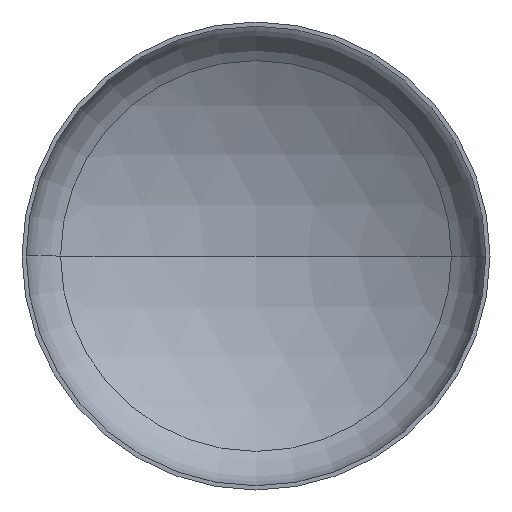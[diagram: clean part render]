
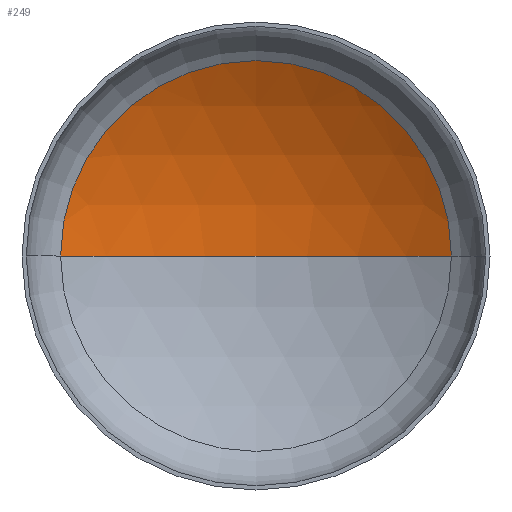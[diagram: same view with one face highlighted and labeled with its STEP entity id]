
A CAD part, front view. The second image highlights one B-rep face of the part: STEP entity #249.
In plain terms, the highlighted spherical face has radius 3200 mm.
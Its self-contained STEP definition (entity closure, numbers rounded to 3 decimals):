
#5 = AXIS2_PLACEMENT_3D ( 'NONE', #57, #112, #129 ) ;
#6 = VERTEX_POINT ( 'NONE', #243 ) ;
#12 = CARTESIAN_POINT ( 'NONE',  ( 0., -2095.09, 0. ) ) ;
#18 = ORIENTED_EDGE ( 'NONE', *, *, #338, .F. ) ;
#24 = AXIS2_PLACEMENT_3D ( 'NONE', #157, #167, #162 ) ;
#29 = EDGE_LOOP ( 'NONE', ( #18, #394, #139 ) ) ;
#32 = AXIS2_PLACEMENT_3D ( 'NONE', #100, #108, #111 ) ;
#38 = AXIS2_PLACEMENT_3D ( 'NONE', #12, #363, #211 ) ;
#57 = CARTESIAN_POINT ( 'NONE',  ( 0., 634.615, 0. ) ) ;
#100 = CARTESIAN_POINT ( 'NONE',  ( 0., -2095.09, 0. ) ) ;
#108 = DIRECTION ( 'NONE',  ( 0., 0., -1. ) ) ;
#111 = DIRECTION ( 'NONE',  ( -1., 0., 0. ) ) ;
#112 = DIRECTION ( 'NONE',  ( 0., -1., 0. ) ) ;
#129 = DIRECTION ( 'NONE',  ( 1., 0., 0. ) ) ;
#139 = ORIENTED_EDGE ( 'NONE', *, *, #360, .T. ) ;
#157 = CARTESIAN_POINT ( 'NONE',  ( 0., -2095.09, 0. ) ) ;
#162 = DIRECTION ( 'NONE',  ( 1., 0., 0. ) ) ;
#166 = VERTEX_POINT ( 'NONE', #295 ) ;
#167 = DIRECTION ( 'NONE',  ( 0., 0., 1. ) ) ;
#211 = DIRECTION ( 'NONE',  ( -1., 0., 0. ) ) ;
#221 = VERTEX_POINT ( 'NONE', #269 ) ;
#233 = CIRCLE ( 'NONE', #24, 3200. ) ;
#240 = CIRCLE ( 'NONE', #32, 3200. ) ;
#243 = CARTESIAN_POINT ( 'NONE',  ( -1669.942, 634.615, 0. ) ) ;
#245 = SPHERICAL_SURFACE ( 'NONE', #38, 3200. ) ;
#249 = ADVANCED_FACE ( 'NONE', ( #301 ), #245, .F. ) ;
#269 = CARTESIAN_POINT ( 'NONE',  ( 0., 1104.91, 0. ) ) ;
#295 = CARTESIAN_POINT ( 'NONE',  ( 1669.942, 634.615, 0. ) ) ;
#301 = FACE_OUTER_BOUND ( 'NONE', #29, .T. ) ;
#332 = EDGE_CURVE ( 'NONE', #221, #166, #240, .T. ) ;
#338 = EDGE_CURVE ( 'NONE', #221, #6, #233, .T. ) ;
#340 = CIRCLE ( 'NONE', #5, 1669.942 ) ;
#360 = EDGE_CURVE ( 'NONE', #166, #6, #340, .T. ) ;
#363 = DIRECTION ( 'NONE',  ( 0., 0., -1. ) ) ;
#394 = ORIENTED_EDGE ( 'NONE', *, *, #332, .T. ) ;
